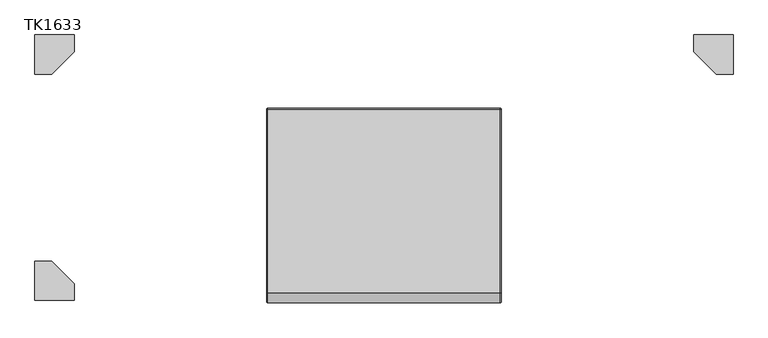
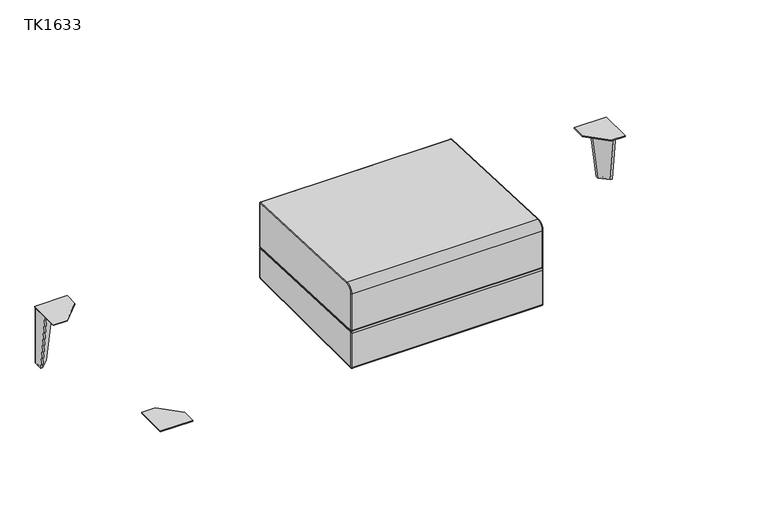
"""IFC4 building model written with IfcOpenShell, lengths in millimetres: furniture geometry, JSI-Teekan-Three_Seat_Lounge : TK1633."""

import ifcopenshell
import ifcopenshell.guid

model = None  # the IFC model being written
_history = None  # IfcOwnerHistory: only IFC2X3 demands one
_inside = {}  # id of a spatial element -> (the spatial element, [elements in it])
_under = {}  # id of a project, library or spatial element -> (it, [spatial elements below it])
_declared = {}  # id of a project -> (the project, [libraries it declares])
_typed = {}  # id of a type object -> (the type object, [elements of that type])
_made_of = {}  # id of a material, layer set ... -> (it, [elements and type objects made of it])


def new_model(schema):
    """Start an empty IFC model of exactly this schema.

    Asked for "IFC4X3", IfcOpenShell would pick the latest addendum, in which some entities
    have other attributes; the version numbers below select the first issue.
    IFC2X3 requires an IfcOwnerHistory on every rooted entity: one is made here for all.
    """
    global model, _history
    if schema == "IFC4X3":
        model = ifcopenshell.file(schema_version=(4, 3, 0, 0))
    else:
        model = ifcopenshell.file(schema=schema)
    _inside.clear()
    _under.clear()
    _declared.clear()
    _typed.clear()
    _made_of.clear()
    _history = None
    if model.schema == "IFC2X3":
        org = make("IfcOrganization", Name="unknown")
        user = make(
            "IfcPersonAndOrganization",
            ThePerson=make("IfcPerson", FamilyName="unknown"),
            TheOrganization=org,
        )
        app = make(
            "IfcApplication",
            ApplicationDeveloper=org,
            Version="unknown",
            ApplicationFullName="unknown",
            ApplicationIdentifier="unknown",
        )
        _history = make(
            "IfcOwnerHistory",
            OwningUser=user,
            OwningApplication=app,
            ChangeAction="ADDED",
            CreationDate=0,
        )
    return model


def make(cls, **values):
    """One entity of the class cls with the attributes given. An attribute that is None is left unset."""
    return model.create_entity(
        cls, **{name: value for name, value in values.items() if value is not None}
    )


def rooted(cls, **values):
    """An entity with a GlobalId (a new one), such as an element, a storey or a relation."""
    return make(cls, GlobalId=ifcopenshell.guid.new(), OwnerHistory=_history, **values)


def si_unit(unit_type, name, prefix=None):
    """IfcSIUnit, for example si_unit("LENGTHUNIT", "METRE", prefix="MILLI")."""
    return make("IfcSIUnit", UnitType=unit_type, Prefix=prefix, Name=name)


def assignment(units):
    """IfcUnitAssignment: the units of a project."""
    return None if units is None else make("IfcUnitAssignment", Units=units)


def point(xyz):
    """IfcCartesianPoint."""
    return None if xyz is None else make("IfcCartesianPoint", Coordinates=xyz)


def direction(xyz):
    """IfcDirection."""
    return None if xyz is None else make("IfcDirection", DirectionRatios=xyz)


def frame(location, z_axis=None, x_axis=None):
    """IfcAxis2Placement3D, a coordinate frame: its origin and axes. An axis left out is left unset."""
    return make(
        "IfcAxis2Placement3D",
        Location=point(location),
        Axis=direction(z_axis),
        RefDirection=direction(x_axis),
    )


def origin():
    """The frame at (0, 0, 0) with its axes left unset."""
    return frame((0.0, 0.0, 0.0))


def place(relative_to, where):
    """IfcLocalPlacement: puts the frame where relative to a parent placement (None: the world)."""
    return make(
        "IfcLocalPlacement", PlacementRelTo=relative_to, RelativePlacement=where
    )


def context(
    kind, dimensions, precision=None, world=None, true_north=None, identifier=None
):
    """IfcGeometricRepresentationContext, for example the 3D "Model" context."""
    return make(
        "IfcGeometricRepresentationContext",
        ContextIdentifier=identifier,
        ContextType=kind,
        CoordinateSpaceDimension=dimensions,
        Precision=precision,
        WorldCoordinateSystem=world,
        TrueNorth=true_north,
    )


def project(units=None, contexts=None):
    """IfcProject with its units and contexts."""
    return rooted(
        "IfcProject",
        Name="project",
        RepresentationContexts=contexts,
        UnitsInContext=assignment(units),
    )


def spatial(cls, under=None, at=None, **own):
    """A site, building, storey or space (cls), placed at a placement, below another one or the project."""
    s = rooted(cls, ObjectPlacement=at, **own)
    if under is not None:
        _under.setdefault(under.id(), (under, []))[1].append(s)
    return s


def polyline(points):
    """IfcPolyline through the points."""
    return make("IfcPolyline", Points=[point(p) for p in points])


def circle_curve(where, radius):
    """IfcCircle in the frame where."""
    return make("IfcCircle", Position=where, Radius=radius)


def ellipse_curve(where, semi_axis1, semi_axis2):
    """IfcEllipse in the frame where."""
    return make(
        "IfcEllipse", Position=where, SemiAxis1=semi_axis1, SemiAxis2=semi_axis2
    )


def trimmed(basis, trim1, trim2, sense, master):
    """IfcTrimmedCurve: the piece of a basis curve between two trims."""
    return make(
        "IfcTrimmedCurve",
        BasisCurve=basis,
        Trim1=trim1,
        Trim2=trim2,
        SenseAgreement=sense,
        MasterRepresentation=master,
    )


def outline(outer, holes=None, kind="AREA"):
    """IfcArbitraryClosedProfileDef: a profile drawn as a closed curve; with holes, ...WithVoids."""
    if holes is None:
        return make("IfcArbitraryClosedProfileDef", ProfileType=kind, OuterCurve=outer)
    return make(
        "IfcArbitraryProfileDefWithVoids",
        ProfileType=kind,
        OuterCurve=outer,
        InnerCurves=holes,
    )


def extrude(swept, where, along, depth):
    """IfcExtrudedAreaSolid: the profile swept, set in the frame where, extruded along a direction by depth."""
    return make(
        "IfcExtrudedAreaSolid",
        SweptArea=swept,
        Position=where,
        ExtrudedDirection=direction(along),
        Depth=depth,
    )


def shape(context_of_items, identifier, shape_type, items):
    """IfcShapeRepresentation: the items that make up one representation, for example the "Body"."""
    return make(
        "IfcShapeRepresentation",
        ContextOfItems=context_of_items,
        RepresentationIdentifier=identifier,
        RepresentationType=shape_type,
        Items=items,
    )


def source(mapping_origin, context_of_items, identifier, shape_type, items):
    """IfcRepresentationMap: a shape defined once, which mapped items show again and again."""
    return make(
        "IfcRepresentationMap",
        MappingOrigin=mapping_origin,
        MappedRepresentation=shape(context_of_items, identifier, shape_type, items),
    )


def transform(
    local_origin,
    x_axis=None,
    y_axis=None,
    z_axis=None,
    scale=None,
    scale2=None,
    scale3=None,
    uniform=True,
):
    """IfcCartesianTransformationOperator3D, or its non-uniform kind. x_axis, y_axis, z_axis: its Axis1, 2, 3."""
    if uniform:
        return make(
            "IfcCartesianTransformationOperator3D",
            Axis1=direction(x_axis),
            Axis2=direction(y_axis),
            LocalOrigin=point(local_origin),
            Scale=scale,
            Axis3=direction(z_axis),
        )
    return make(
        "IfcCartesianTransformationOperator3DnonUniform",
        Axis1=direction(x_axis),
        Axis2=direction(y_axis),
        LocalOrigin=point(local_origin),
        Scale=scale,
        Axis3=direction(z_axis),
        Scale2=scale2,
        Scale3=scale3,
    )


def mapped(mapping_source, mapping_target):
    """IfcMappedItem: shows the shape of a source again, moved by a transform."""
    return make(
        "IfcMappedItem", MappingSource=mapping_source, MappingTarget=mapping_target
    )


def made_of(thing, what):
    """Note that an element or type object is made of a material, layer set ...; save() writes the relation."""
    if what is not None:
        _made_of.setdefault(what.id(), (what, []))[1].append(thing)
    return thing


def element(
    cls,
    number,
    at=None,
    inside=None,
    cuts=None,
    type_object=None,
    material=None,
    context=None,
    identifier="Body",
    shape_type=None,
    held_by="IfcProductDefinitionShape",
    body=None,
    shapes=None,
    **own,
):
    """One element of the class cls, such as IfcWall. Its Tag is "e" and its number.

    at: its placement. inside: the storey or other place that contains it. cuts: it is an
    opening in that element (IfcRelVoidsElement). A single representation is given by context,
    identifier, shape_type and body (its items); several are given by shapes. held_by: the class
    of the entity that holds the representations. save() writes the other relations.
    """
    e = rooted(cls, Tag="e%d" % number, ObjectPlacement=at, **own)
    if body is not None:
        shapes = [shape(context, identifier, shape_type, body)]
    if shapes is not None:
        e.Representation = make(held_by, Representations=shapes)
    if inside is not None:
        _inside.setdefault(inside.id(), (inside, []))[1].append(e)
    if cuts is not None:
        rooted(
            "IfcRelVoidsElement", RelatingBuildingElement=cuts, RelatedOpeningElement=e
        )
    if type_object is not None:
        _typed.setdefault(type_object.id(), (type_object, []))[1].append(e)
    return made_of(e, material)


def aggregate(whole, parts):
    """IfcRelAggregates: a whole, such as a stair, and the parts it consists of."""
    return rooted("IfcRelAggregates", RelatingObject=whole, RelatedObjects=parts)


def save(model, path):
    """Write the relations noted so far, then the file.

    IfcRelAggregates (storeys below a building ...), IfcRelContainedInSpatialStructure (elements
    in a storey), IfcRelDefinesByType, IfcRelAssociatesMaterial and IfcRelDeclares: one each for
    every whole, place, type object, material and project.
    """
    for whole, parts in _under.values():
        aggregate(whole, parts)
    for where, things in _inside.values():
        rooted(
            "IfcRelContainedInSpatialStructure",
            RelatedElements=things,
            RelatingStructure=where,
        )
    for kind, things in _typed.values():
        rooted("IfcRelDefinesByType", RelatedObjects=things, RelatingType=kind)
    for what, things in _made_of.values():
        rooted("IfcRelAssociatesMaterial", RelatedObjects=things, RelatingMaterial=what)
    for by, libraries in _declared.values():
        rooted("IfcRelDeclares", RelatingContext=by, RelatedDefinitions=libraries)
    model.write(path)


def plane_surface(at):
    """IfcPlane: the flat surface through the origin of the frame at, square to its z axis."""
    return make("IfcPlane", Position=at)


def cylinder_surface(at, radius):
    """IfcCylindricalSurface: all points at the distance radius from the z axis of the frame at."""
    return make("IfcCylindricalSurface", Position=at, Radius=radius)


def revolved_surface(curve, axis_point, axis_direction):
    """IfcSurfaceOfRevolution: the curve turned about the line through axis_point along axis_direction."""
    return make(
        "IfcSurfaceOfRevolution",
        SweptCurve=make("IfcArbitraryOpenProfileDef", ProfileType="CURVE", Curve=curve),
        AxisPosition=make("IfcAxis1Placement", Location=point(axis_point), Axis=direction(axis_direction)),
    )


def spline_surface(u_degree, v_degree, points, u_multiplicities, v_multiplicities, u_knots, v_knots, weights=None):
    """IfcBSplineSurfaceWithKnots; with weights, IfcRationalBSplineSurfaceWithKnots. points: one row for each step in u."""
    own = dict(
        UDegree=u_degree,
        VDegree=v_degree,
        ControlPointsList=[[point(p) for p in row] for row in points],
        SurfaceForm="UNSPECIFIED",
        UClosed=False,
        VClosed=False,
        SelfIntersect=False,
        UMultiplicities=u_multiplicities,
        VMultiplicities=v_multiplicities,
        UKnots=u_knots,
        VKnots=v_knots,
        KnotSpec="UNSPECIFIED",
    )
    if weights is None:
        return make("IfcBSplineSurfaceWithKnots", **own)
    return make("IfcRationalBSplineSurfaceWithKnots", WeightsData=weights, **own)


def advanced_brep(points, edges, surfaces, faces):
    """IfcAdvancedBrep: a solid bounded by faces that lie on surfaces and meet in shared edges.

    An edge is (start, end): straight between two places in points (the first is 0);
    or (start, end, curve); or (start, end, curve, False) where it runs against its curve.
    A face is (place in surfaces, loops), or (place, loops, False) where it looks against
    its surface's normal. A loop lists edges by number (the first is 1), with a minus sign
    where the edge is run from its end to its start. The first loop is the outer one.
    """
    corners = [point(p) for p in points]
    vertices = [make("IfcVertexPoint", VertexGeometry=c) for c in corners]
    made = []
    for start, end, *more in edges:
        made.append(
            make(
                "IfcEdgeCurve",
                EdgeStart=vertices[start],
                EdgeEnd=vertices[end],
                EdgeGeometry=more[0] if more else make("IfcPolyline", Points=[corners[start], corners[end]]),
                SameSense=more[1] if len(more) > 1 else True,
            )
        )
    hull = []
    for where, loops, *sense in faces:
        bounds = []
        for j, loop in enumerate(loops):
            ring = [make("IfcOrientedEdge", EdgeElement=made[abs(k) - 1], Orientation=k > 0) for k in loop]
            bounds.append(
                make(
                    "IfcFaceOuterBound" if j == 0 else "IfcFaceBound",
                    Bound=make("IfcEdgeLoop", EdgeList=ring),
                    Orientation=True,
                )
            )
        hull.append(make("IfcAdvancedFace", Bounds=bounds, FaceSurface=surfaces[where], SameSense=sense[0] if sense else True))
    return make("IfcAdvancedBrep", Outer=make("IfcClosedShell", CfsFaces=hull))


def tk1633_198e8653(model_context):
    return source(origin(), model_context, "Body", "SolidModel", [
        extrude(outline(polyline([(-800.1, -342.9), (-901.7, -342.9), (-901.7, -241.3), (-858.8375, -241.3), (-800.1, -300.0375), (-800.1, -342.9)])), frame((0.0, 0.0, 189.4817329), z_axis=(0.0, 0.0, 1.0), x_axis=(1.0, 0.0, 0.0)), (0.0, 0.0, 1.0), 3.175),
        advanced_brep(
        [(891.7013333, 340.133006, 3.1926572), (891.7013333, 340.133006, 4.9994321), (891.7013333, 325.6863843, 4.9994321), (891.7013333, 325.6863843, 3.1926572), (891.7013333, 336.9403488, 0.0), (891.7013333, 328.8790415, 0.0), (891.7013333, 332.9096951, 0.0), (891.7013333, 332.9096951, 4.9994321)],
        [
            (0, 1),
            (1, 2, circle_curve(frame((891.7013333, 332.9096951, 4.9994321), z_axis=(0.0, 0.0, -1.0), x_axis=(0.0, -1.0, 0.0)), 7.2233108)),
            (2, 3),
            (3, 0, circle_curve(frame((891.7013333, 332.9096951, 3.1926572), z_axis=(0.0, 0.0, 1.0), x_axis=(0.0, -1.0, 0.0)), 7.2233108)),
            (2, 1, circle_curve(frame((891.7013333, 332.9096951, 4.9994321), z_axis=(0.0, 0.0, -1.0), x_axis=(0.0, -1.0, 0.0)), 7.2233108)),
            (0, 3, circle_curve(frame((891.7013333, 332.9096951, 3.1926572), z_axis=(0.0, 0.0, 1.0), x_axis=(0.0, -1.0, 0.0)), 7.2233108)),
            (4, 0, circle_curve(frame((891.7013333, 336.9403488, 3.1926572), z_axis=(1.0, 0.0, 0.0), x_axis=(0.0, 1.0, 0.0)), 3.1926572)),
            (3, 5, circle_curve(frame((891.7013333, 328.8790415, 3.1926572), z_axis=(1.0, 0.0, 0.0), x_axis=(0.0, -1.0, 0.0)), 3.1926572)),
            (5, 4, circle_curve(frame((891.7013333, 332.9096951, 0.0), z_axis=(0.0, 0.0, 1.0), x_axis=(0.0, -1.0, 0.0)), 4.0306536)),
            (4, 5, circle_curve(frame((891.7013333, 332.9096951, 0.0), z_axis=(0.0, 0.0, 1.0), x_axis=(0.0, -1.0, 0.0)), 4.0306536)),
            (6, 4),
            (5, 6),
            (1, 7),
            (7, 2),
        ],
        [
            cylinder_surface(frame((891.7013333, 332.9096951, 14.2077797), z_axis=(0.0, 0.0, -1.0), x_axis=(0.0, -1.0, 0.0)), 7.2233108),
            revolved_surface(trimmed(ellipse_curve(frame((891.7013333, 328.8790415, 3.1926572), z_axis=(1.0, 0.0, 0.0), x_axis=(0.0, -1.0, 0.0)), 3.1926572, 3.1926572), [point((891.7013333, 325.6863843, 3.1926572))], [point((891.7013333, 328.8790415, 0.0))], True, "CARTESIAN"), (891.7013333, 332.9096951, 14.2077797), (0.0, 0.0, -1.0)),
            plane_surface(frame((891.7013333, 332.9096951, 0.0), z_axis=(0.0, 0.0, -1.0), x_axis=(0.0, -1.0, 0.0))),
            plane_surface(frame((891.7013333, 332.9096951, 4.9994321), z_axis=(0.0, 0.0, 1.0), x_axis=(0.0, -1.0, 0.0))),
        ],
        [
            (0, [[1, 2, 3, 4]]),
            (0, [[-3, 5, -1, 6]]),
            (1, [[7, -4, 8, 9]]),
            (1, [[-8, -6, -7, 10]]),
            (2, [[11, -9, 12]]),
            (2, [[-12, -10, -11]]),
            (3, [[13, 14, -2]]),
            (3, [[-14, -13, -5]]),
        ],
    ),
        advanced_brep(
        [(847.725, 336.5496631, 189.4817329), (895.35, 288.9246631, 189.4817329), (901.7, 288.9246631, 189.4817329), (901.7, 339.725, 189.4817329), (898.525, 342.9, 189.4817329), (847.725, 342.9, 189.4817329), (869.95, 336.5496631, 4.9994321), (869.95, 342.9, 4.9994321), (898.4969923, 342.9, 4.9994321), (901.7, 339.6969923, 4.9994321), (901.7, 311.1496631, 4.9994321), (895.35, 311.1496631, 4.9994321)],
        [
            (0, 1),
            (1, 2),
            (2, 3),
            (3, 4, circle_curve(frame((898.525, 339.725, 189.4817329), z_axis=(0.0, 0.0, 1.0), x_axis=(-1.0, 0.0, 0.0)), 3.175)),
            (4, 5),
            (5, 0),
            (6, 7),
            (7, 8),
            (8, 9, circle_curve(frame((898.4969923, 339.6969923, 4.9994321), z_axis=(0.0, 0.0, -1.0), x_axis=(-1.0, 0.0, 0.0)), 3.2030077)),
            (9, 10),
            (10, 11),
            (11, 6),
            (6, 0),
            (5, 7),
            (4, 8),
            (3, 9),
            (2, 10),
            (1, 11),
        ],
        [
            plane_surface(frame((882.1208333, 323.3206649, 189.4817329), z_axis=(0.0, 0.0, 1.0), x_axis=(-1.0, 0.0, 0.0))),
            plane_surface(frame((889.5244987, 330.7243303, 4.9994321), z_axis=(0.0, 0.0, -1.0), x_axis=(-1.0, 0.0, 0.0))),
            plane_surface(frame((869.95, 339.7248316, 4.9994321), z_axis=(-0.9928212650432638, 0.0, -0.11960742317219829), x_axis=(0.0, 1.0, 0.0))),
            plane_surface(frame((884.2234961, 342.9, 4.9994321), z_axis=(0.0, 1.0, 0.0), x_axis=(1.0, 0.0, 0.0))),
            spline_surface(1, 2, [[(898.4969923, 342.9, 4.9994321), (901.7, 342.8999999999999, 4.9994321), (901.7, 339.6969923, 4.9994321)], [(898.525, 342.9, 189.4817329), (901.6999999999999, 342.8999999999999, 189.4817329), (901.7, 339.725, 189.4817329)]], [2, 2], [3, 3], [0.0, 1.0], [0.0, 1.0], weights=[[1.0, 0.7071067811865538, 1.0], [1.0, 0.7071067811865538, 1.0]]),
            plane_surface(frame((901.7, 325.4233277, 4.9994321), z_axis=(1.0, 0.0, 0.0), x_axis=(0.0, -1.0, 0.0))),
            plane_surface(frame((898.525, 311.1496631, 4.9994321), z_axis=(0.0, -0.992821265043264, -0.11960742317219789), x_axis=(-1.0, 0.0, 0.0))),
            plane_surface(frame((882.65, 323.8496631, 4.9994321), z_axis=(-0.7045550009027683, -0.7045550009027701, -0.08487933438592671), x_axis=(-0.7071067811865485, 0.7071067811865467, 0.0))),
        ],
        [
            (0, [[1, 2, 3, 4, 5, 6]]),
            (1, [[7, 8, 9, 10, 11, 12]]),
            (2, [[13, -6, 14, -7]]),
            (3, [[-14, -5, 15, -8]]),
            (4, [[-15, -4, 16, -9]]),
            (5, [[-16, -3, 17, -10]]),
            (6, [[-17, -2, 18, -11]]),
            (7, [[-18, -1, -13, -12]]),
        ],
    ),
        extrude(outline(polyline([(800.1, 342.9), (901.7, 342.9), (901.7, 241.3), (858.8375, 241.3), (800.1, 300.0375), (800.1, 342.9)])), frame((0.0, 0.0, 189.4817329), z_axis=(0.0, 0.0, 1.0), x_axis=(1.0, 0.0, 0.0)), (0.0, 0.0, 1.0), 3.175),
        advanced_brep(
        [(-891.7013333, 340.133006, 3.1926572), (-891.7013333, 325.6863843, 3.1926572), (-891.7013333, 325.6863843, 4.9994321), (-891.7013333, 340.133006, 4.9994321), (-891.7013333, 336.9403488, 0.0), (-891.7013333, 328.8790415, 0.0), (-891.7013333, 332.9096951, 0.0), (-891.7013333, 332.9096951, 4.9994321)],
        [
            (0, 1, circle_curve(frame((-891.7013333, 332.9096951, 3.1926572), z_axis=(0.0, 0.0, 1.0), x_axis=(0.0, -1.0, 0.0)), 7.2233108)),
            (1, 2),
            (2, 3, circle_curve(frame((-891.7013333, 332.9096951, 4.9994321), z_axis=(0.0, 0.0, -1.0), x_axis=(0.0, -1.0, 0.0)), 7.2233108)),
            (3, 0),
            (1, 0, circle_curve(frame((-891.7013333, 332.9096951, 3.1926572), z_axis=(0.0, 0.0, 1.0), x_axis=(0.0, -1.0, 0.0)), 7.2233108)),
            (3, 2, circle_curve(frame((-891.7013333, 332.9096951, 4.9994321), z_axis=(0.0, 0.0, -1.0), x_axis=(0.0, -1.0, 0.0)), 7.2233108)),
            (4, 5, circle_curve(frame((-891.7013333, 332.9096951, 0.0), z_axis=(0.0, 0.0, 1.0), x_axis=(0.0, -1.0, 0.0)), 4.0306536)),
            (5, 1, circle_curve(frame((-891.7013333, 328.8790415, 3.1926572), z_axis=(-1.0, 0.0, 0.0), x_axis=(0.0, -1.0, 0.0)), 3.1926572)),
            (0, 4, circle_curve(frame((-891.7013333, 336.9403488, 3.1926572), z_axis=(-1.0, 0.0, 0.0), x_axis=(0.0, 1.0, 0.0)), 3.1926572)),
            (5, 4, circle_curve(frame((-891.7013333, 332.9096951, 0.0), z_axis=(0.0, 0.0, 1.0), x_axis=(0.0, -1.0, 0.0)), 4.0306536)),
            (6, 5),
            (4, 6),
            (2, 7),
            (7, 3),
        ],
        [
            cylinder_surface(frame((-891.7013333, 332.9096951, 14.2077797), z_axis=(0.0, 0.0, -1.0), x_axis=(0.0, -1.0, 0.0)), 7.2233108),
            revolved_surface(trimmed(ellipse_curve(frame((-891.7013333, 328.8790415, 3.1926572), z_axis=(1.0, 0.0, 0.0), x_axis=(0.0, -1.0, 0.0)), 3.1926572, 3.1926572), [point((-891.7013333, 325.6863843, 3.1926572))], [point((-891.7013333, 328.8790415, 0.0))], True, "CARTESIAN"), (-891.7013333, 332.9096951, 14.2077797), (0.0, 0.0, -1.0)),
            plane_surface(frame((-891.7013333, 332.9096951, 0.0), z_axis=(0.0, 0.0, -1.0), x_axis=(0.0, -1.0, 0.0))),
            plane_surface(frame((-891.7013333, 332.9096951, 4.9994321), z_axis=(0.0, 0.0, 1.0), x_axis=(0.0, -1.0, 0.0))),
        ],
        [
            (0, [[1, 2, 3, 4]]),
            (0, [[5, -4, 6, -2]]),
            (1, [[7, 8, -1, 9]]),
            (1, [[10, -9, -5, -8]]),
            (2, [[11, -7, 12]]),
            (2, [[-12, -10, -11]]),
            (3, [[-3, 13, 14]]),
            (3, [[-6, -14, -13]]),
        ],
    ),
        advanced_brep(
        [(-847.725, 336.5496631, 189.4817329), (-847.725, 342.9, 189.4817329), (-898.525, 342.9, 189.4817329), (-901.7, 339.725, 189.4817329), (-901.7, 288.9246631, 189.4817329), (-895.35, 288.9246631, 189.4817329), (-869.95, 336.5496631, 4.9994321), (-895.35, 311.1496631, 4.9994321), (-901.7, 311.1496631, 4.9994321), (-901.7, 339.6969923, 4.9994321), (-898.4969923, 342.9, 4.9994321), (-869.95, 342.9, 4.9994321)],
        [
            (0, 1),
            (1, 2),
            (2, 3, circle_curve(frame((-898.525, 339.725, 189.4817329), z_axis=(0.0, 0.0, 1.0), x_axis=(1.0, 0.0, 0.0)), 3.175)),
            (3, 4),
            (4, 5),
            (5, 0),
            (6, 7),
            (7, 8),
            (8, 9),
            (9, 10, circle_curve(frame((-898.4969923, 339.6969923, 4.9994321), z_axis=(0.0, 0.0, -1.0), x_axis=(1.0, 0.0, 0.0)), 3.2030077)),
            (10, 11),
            (11, 6),
            (11, 1),
            (0, 6),
            (10, 2),
            (9, 3),
            (8, 4),
            (7, 5),
        ],
        [
            plane_surface(frame((-882.1208333, 323.3206649, 189.4817329), z_axis=(0.0, 0.0, 1.0), x_axis=(1.0, 0.0, 0.0))),
            plane_surface(frame((-889.5244987, 330.7243303, 4.9994321), z_axis=(0.0, 0.0, -1.0), x_axis=(1.0, 0.0, 0.0))),
            plane_surface(frame((-869.95, 339.7248316, 4.9994321), z_axis=(0.9928212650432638, 0.0, -0.11960742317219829), x_axis=(0.0, 1.0, 0.0))),
            plane_surface(frame((-884.2234961, 342.9, 4.9994321), z_axis=(0.0, 1.0, 0.0), x_axis=(-1.0, 0.0, 0.0))),
            spline_surface(2, 1, [[(-898.4969923, 342.9, 4.9994321), (-898.525, 342.9, 189.4817329)], [(-901.7, 342.8999999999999, 4.9994321), (-901.6999999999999, 342.8999999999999, 189.4817329)], [(-901.7, 339.6969923, 4.9994321), (-901.7, 339.725, 189.4817329)]], [3, 3], [2, 2], [0.0, 1.0], [0.0, 1.0], weights=[[1.0, 1.0], [0.7071067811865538, 0.7071067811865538], [1.0, 1.0]]),
            plane_surface(frame((-901.7, 325.4233277, 4.9994321), z_axis=(-1.0, 0.0, 0.0), x_axis=(0.0, -1.0, 0.0))),
            plane_surface(frame((-898.525, 311.1496631, 4.9994321), z_axis=(0.0, -0.992821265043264, -0.11960742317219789), x_axis=(1.0, 0.0, 0.0))),
            plane_surface(frame((-882.65, 323.8496631, 4.9994321), z_axis=(0.7045550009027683, -0.7045550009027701, -0.08487933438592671), x_axis=(0.7071067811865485, 0.7071067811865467, 0.0))),
        ],
        [
            (0, [[1, 2, 3, 4, 5, 6]]),
            (1, [[7, 8, 9, 10, 11, 12]]),
            (2, [[-12, 13, -1, 14]]),
            (3, [[-11, 15, -2, -13]]),
            (4, [[-10, 16, -3, -15]]),
            (5, [[-9, 17, -4, -16]]),
            (6, [[-8, 18, -5, -17]]),
            (7, [[-7, -14, -6, -18]]),
        ],
    ),
        extrude(outline(polyline([(-800.1, 342.9), (-800.1, 300.0375), (-858.8375, 241.3), (-901.7, 241.3), (-901.7, 342.9), (-800.1, 342.9)])), frame((0.0, 0.0, 189.4817329), z_axis=(0.0, 0.0, 1.0), x_axis=(1.0, 0.0, 0.0)), (0.0, 0.0, 1.0), 3.175),
        advanced_brep(
        [(300.2359375, 148.7693192, 295.6513391), (300.2359375, 153.733973, 300.4095468), (302.6171875, 151.352723, 300.4095468), (302.6171875, 148.8703961, 298.0304429), (-300.2359375, 148.7693192, 295.6513391), (-300.2359375, 153.733973, 300.4095468), (-302.6171875, 148.8703961, 298.0304429), (-302.6171875, 151.352723, 300.4095468), (302.6171875, -344.5512855, 318.9936072), (300.2359375, -344.6523625, 316.6145034), (-300.2359375, -344.6523625, 316.6145034), (-302.6171875, -344.5512855, 318.9936072), (300.2359375, -322.7527962, 467.50355), (302.6171875, -322.8538731, 465.1244462), (302.6171875, 149.0725499, 445.0745142), (300.2359375, 149.1736269, 447.4536181), (-300.2359375, 149.1736269, 447.4536181), (-300.2359375, -322.7527962, 467.50355), (-302.6171875, 149.0725499, 445.0745142), (-302.6171875, -322.8538731, 465.1244462), (302.6171875, 151.352723, 442.6954104), (300.2359375, 153.733973, 442.6954104), (-300.2359375, 153.733973, 442.6954104), (-302.6171875, 151.352723, 442.6954104), (302.6171875, -346.8497, 321.3917439), (300.2359375, -349.23095, 321.3917439), (-300.2359375, -349.23095, 321.3917439), (-302.6171875, -346.8497, 321.3917439), (302.6171875, -346.8497, 442.1264425), (300.2359375, -349.23095, 442.1264425), (-300.2359375, -349.23095, 442.1264425), (-302.6171875, -346.8497, 442.1264425)],
        [
            (0, 1, circle_curve(frame((300.2359375, 148.971473, 300.4095468), z_axis=(1.0, 0.0, 0.0), x_axis=(0.0, 1.0, 0.0)), 4.7625)),
            (1, 2, circle_curve(frame((300.2359375, 151.352723, 300.4095468), z_axis=(0.0, 0.0, -1.0), x_axis=(1.0, 0.0, 0.0)), 2.38125)),
            (2, 3, circle_curve(frame((302.6171875, 148.971473, 300.4095468), z_axis=(-1.0, 0.0, 0.0), x_axis=(0.0, 1.0, 0.0)), 2.38125)),
            (3, 0, circle_curve(frame((300.2359375, 148.8703961, 298.0304429), z_axis=(0.0, 0.9990987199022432, -0.04244700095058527), x_axis=(1.0, 0.0, 0.0)), 2.38125)),
            (0, 4),
            (4, 5, circle_curve(frame((-300.2359375, 148.971473, 300.4095468), z_axis=(1.0, 0.0, 0.0), x_axis=(0.0, 1.0, 0.0)), 4.7625)),
            (5, 1),
            (4, 6, circle_curve(frame((-300.2359375, 148.8703961, 298.0304429), z_axis=(0.0, 0.999098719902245, -0.042447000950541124), x_axis=(1.0, 0.0, 0.0)), 2.38125)),
            (6, 7, circle_curve(frame((-302.6171875, 148.971473, 300.4095468), z_axis=(1.0, 0.0, 0.0), x_axis=(0.0, 1.0, 0.0)), 2.38125)),
            (7, 5, circle_curve(frame((-300.2359375, 151.352723, 300.4095468), z_axis=(0.0, 0.0, -1.0), x_axis=(1.0, 0.0, 0.0)), 2.38125)),
            (3, 8),
            (8, 9, circle_curve(frame((300.2359375, -344.5512855, 318.9936072), z_axis=(0.0, 0.9990987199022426, -0.04244700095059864), x_axis=(1.0, 0.0, 0.0)), 2.38125)),
            (9, 0),
            (9, 10),
            (10, 4),
            (10, 11, circle_curve(frame((-300.2359375, -344.5512855, 318.9936072), z_axis=(0.0, 0.9990987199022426, -0.04244700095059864), x_axis=(1.0, 0.0, 0.0)), 2.38125)),
            (11, 6),
            (12, 13, circle_curve(frame((300.2359375, -322.8538731, 465.1244462), z_axis=(0.0, 0.9990987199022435, -0.0424470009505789), x_axis=(1.0, 0.0, 0.0)), 2.38125)),
            (13, 14),
            (14, 15, circle_curve(frame((300.2359375, 149.0725499, 445.0745142), z_axis=(0.0, -0.9990987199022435, 0.0424470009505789), x_axis=(1.0, 0.0, 0.0)), 2.38125)),
            (15, 12),
            (15, 16),
            (16, 17),
            (17, 12),
            (16, 18, circle_curve(frame((-300.2359375, 149.0725499, 445.0745142), z_axis=(0.0, -0.9990987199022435, 0.0424470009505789), x_axis=(1.0, 0.0, 0.0)), 2.38125)),
            (18, 19),
            (19, 17, circle_curve(frame((-300.2359375, -322.8538731, 465.1244462), z_axis=(0.0, 0.9990987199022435, -0.0424470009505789), x_axis=(1.0, 0.0, 0.0)), 2.38125)),
            (14, 20, circle_curve(frame((302.6171875, 148.971473, 442.6954104), z_axis=(-1.0, 0.0, 0.0), x_axis=(0.0, 0.04244700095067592, 0.9990987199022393)), 2.38125)),
            (20, 21, circle_curve(frame((300.2359375, 151.352723, 442.6954104), z_axis=(0.0, 0.0, 1.0), x_axis=(1.0, 0.0, 0.0)), 2.38125)),
            (21, 15, circle_curve(frame((300.2359375, 148.971473, 442.6954104), z_axis=(1.0, 0.0, 0.0), x_axis=(0.0, 0.04244700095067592, 0.9990987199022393)), 4.7625)),
            (21, 22),
            (22, 16, circle_curve(frame((-300.2359375, 148.971473, 442.6954104), z_axis=(1.0, 0.0, 0.0), x_axis=(0.0, 0.04244700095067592, 0.9990987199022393)), 4.7625)),
            (22, 23, circle_curve(frame((-300.2359375, 151.352723, 442.6954104), z_axis=(0.0, 0.0, 1.0), x_axis=(1.0, 0.0, 0.0)), 2.38125)),
            (23, 18, circle_curve(frame((-302.6171875, 148.971473, 442.6954104), z_axis=(1.0, 0.0, 0.0), x_axis=(0.0, 0.04244700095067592, 0.9990987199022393)), 2.38125)),
            (1, 21),
            (20, 2),
            (5, 22),
            (7, 23),
            (8, 24, circle_curve(frame((302.6171875, -344.4494, 321.3917439), z_axis=(-1.0, 0.0, 0.0), x_axis=(0.0, -0.04244700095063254, -0.9990987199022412)), 2.4003)),
            (24, 25, circle_curve(frame((300.2359375, -346.8497, 321.3917439), z_axis=(0.0, 0.0, -1.0), x_axis=(1.0, 0.0, 0.0)), 2.38125)),
            (25, 9, circle_curve(frame((300.2359375, -344.4494, 321.3917439), z_axis=(1.0, 0.0, 0.0), x_axis=(0.0, -0.04244700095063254, -0.9990987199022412)), 4.78155)),
            (25, 26),
            (26, 10, circle_curve(frame((-300.2359375, -344.4494, 321.3917439), z_axis=(1.0, 0.0, 0.0), x_axis=(0.0, -0.04244700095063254, -0.9990987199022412)), 4.78155)),
            (26, 27, circle_curve(frame((-300.2359375, -346.8497, 321.3917439), z_axis=(0.0, 0.0, -1.0), x_axis=(1.0, 0.0, 0.0)), 2.38125)),
            (27, 11, circle_curve(frame((-302.6171875, -344.4494, 321.3917439), z_axis=(1.0, 0.0, 0.0), x_axis=(0.0, -0.04244700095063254, -0.9990987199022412)), 2.4003)),
            (24, 28),
            (28, 29, circle_curve(frame((300.2359375, -346.8497, 442.1264425), z_axis=(0.0, 0.0, -1.0), x_axis=(1.0, 0.0, 0.0)), 2.38125)),
            (29, 25),
            (29, 30),
            (30, 26),
            (30, 31, circle_curve(frame((-300.2359375, -346.8497, 442.1264425), z_axis=(0.0, 0.0, -1.0), x_axis=(1.0, 0.0, 0.0)), 2.38125)),
            (31, 27),
            (13, 28, circle_curve(frame((302.6171875, -323.83095, 442.1264425), z_axis=(1.0, 0.0, 0.0), x_axis=(0.0, -1.0, 0.0)), 23.01875)),
            (12, 29, circle_curve(frame((300.2359375, -323.83095, 442.1264425), z_axis=(1.0, 0.0, 0.0), x_axis=(0.0, -1.0, 0.0)), 25.4)),
            (17, 30, circle_curve(frame((-300.2359375, -323.83095, 442.1264425), z_axis=(1.0, 0.0, 0.0), x_axis=(0.0, -1.0, 0.0)), 25.4)),
            (19, 31, circle_curve(frame((-302.6171875, -323.83095, 442.1264425), z_axis=(1.0, 0.0, 0.0), x_axis=(0.0, -1.0, 0.0)), 23.01875)),
        ],
        [
            revolved_surface(trimmed(ellipse_curve(frame((300.2359375, 151.352723, 300.4095468), z_axis=(0.0, 0.0, 1.0), x_axis=(1.0, 0.0, 0.0)), 2.38125, 2.38125), [point((302.6171875, 151.352723, 300.4095468))], [point((300.2359375, 153.733973, 300.4095468))], True, "CARTESIAN"), (0.0, 148.971473, 300.4095468), (-1.0, 0.0, 0.0)),
            cylinder_surface(frame((0.0, 148.971473, 300.4095468), z_axis=(-1.0, 0.0, 0.0), x_axis=(0.0, 1.0, 0.0)), 4.7625),
            revolved_surface(trimmed(ellipse_curve(frame((-300.2359375, 151.352723, 300.4095468), z_axis=(0.0, 0.0, 1.0), x_axis=(1.0, 0.0, 0.0)), 2.38125, 2.38125), [point((-300.2359375, 153.733973, 300.4095468))], [point((-302.6171875, 151.352723, 300.4095468))], True, "CARTESIAN"), (0.0, 148.971473, 300.4095468), (-1.0, 0.0, 0.0)),
            cylinder_surface(frame((300.2359375, 148.8703961, 298.0304429), z_axis=(0.0, 0.9990987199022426, -0.04244700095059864), x_axis=(1.0, 0.0, 0.0)), 2.38125),
            plane_surface(frame((300.2359375, 148.7693192, 295.6513391), z_axis=(0.0, -0.04244700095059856, -0.9990987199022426), x_axis=(0.0, -0.9990987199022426, 0.04244700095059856))),
            cylinder_surface(frame((-300.2359375, 148.8703961, 298.0304429), z_axis=(0.0, 0.9990987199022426, -0.04244700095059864), x_axis=(1.0, 0.0, 0.0)), 2.38125),
            cylinder_surface(frame((300.2359375, -322.8538731, 465.1244462), z_axis=(0.0, -0.9990987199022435, 0.0424470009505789), x_axis=(1.0, 0.0, 0.0)), 2.38125),
            plane_surface(frame((300.2359375, -322.7527962, 467.50355), z_axis=(0.0, 0.04244700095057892, 0.9990987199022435), x_axis=(0.0, 0.9990987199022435, -0.04244700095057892))),
            cylinder_surface(frame((-300.2359375, -322.8538731, 465.1244462), z_axis=(0.0, -0.9990987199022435, 0.0424470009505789), x_axis=(1.0, 0.0, 0.0)), 2.38125),
            revolved_surface(trimmed(ellipse_curve(frame((300.2359375, 149.0725499, 445.0745142), z_axis=(0.0, -0.9990987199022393, 0.04244700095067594), x_axis=(1.0, 0.0, 0.0)), 2.38125, 2.38125), [point((302.6171875, 149.0725499, 445.0745142))], [point((300.2359375, 149.1736269, 447.4536181))], True, "CARTESIAN"), (0.0, 148.971473, 442.6954104), (-1.0, 0.0, 0.0)),
            cylinder_surface(frame((0.0, 148.971473, 442.6954104), z_axis=(-1.0, 0.0, 0.0), x_axis=(0.0, 0.04244700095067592, 0.9990987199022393)), 4.7625),
            revolved_surface(trimmed(ellipse_curve(frame((-300.2359375, 149.0725499, 445.0745142), z_axis=(0.0, -0.9990987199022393, 0.04244700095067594), x_axis=(1.0, 0.0, 0.0)), 2.38125, 2.38125), [point((-300.2359375, 149.1736269, 447.4536181))], [point((-302.6171875, 149.0725499, 445.0745142))], True, "CARTESIAN"), (0.0, 148.971473, 442.6954104), (-1.0, 0.0, 0.0)),
            cylinder_surface(frame((300.2359375, 151.352723, 442.6954104), z_axis=(0.0, 0.0, 1.0), x_axis=(1.0, 0.0, 0.0)), 2.38125),
            plane_surface(frame((300.2359375, 153.733973, 442.6954104), z_axis=(0.0, 1.0, 0.0), x_axis=(0.0, 0.0, -1.0))),
            cylinder_surface(frame((-300.2359375, 151.352723, 442.6954104), z_axis=(0.0, 0.0, 1.0), x_axis=(1.0, 0.0, 0.0)), 2.38125),
            revolved_surface(trimmed(ellipse_curve(frame((300.2359375, -344.5512855, 318.9936072), z_axis=(0.0, 0.9990987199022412, -0.042447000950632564), x_axis=(1.0, 0.0, 0.0)), 2.38125, 2.38125), [point((302.6171875, -344.5512855, 318.9936072))], [point((300.2359375, -344.6523625, 316.6145034))], True, "CARTESIAN"), (0.0, -344.4494, 321.3917439), (-1.0, 0.0, 0.0)),
            cylinder_surface(frame((0.0, -344.4494, 321.3917439), z_axis=(-1.0, 0.0, 0.0), x_axis=(0.0, -0.04244700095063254, -0.9990987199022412)), 4.78155),
            revolved_surface(trimmed(ellipse_curve(frame((-300.2359375, -344.5512855, 318.9936072), z_axis=(0.0, 0.9990987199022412, -0.042447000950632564), x_axis=(1.0, 0.0, 0.0)), 2.38125, 2.38125), [point((-300.2359375, -344.6523625, 316.6145034))], [point((-302.6171875, -344.5512855, 318.9936072))], True, "CARTESIAN"), (0.0, -344.4494, 321.3917439), (-1.0, 0.0, 0.0)),
            cylinder_surface(frame((300.2359375, -346.8497, 321.3917439), z_axis=(0.0, 0.0, -1.0), x_axis=(1.0, 0.0, 0.0)), 2.38125),
            plane_surface(frame((300.2359375, -349.23095, 321.3917439), z_axis=(0.0, -1.0, 0.0), x_axis=(0.0, 0.0, 1.0))),
            cylinder_surface(frame((-300.2359375, -346.8497, 321.3917439), z_axis=(0.0, 0.0, -1.0), x_axis=(1.0, 0.0, 0.0)), 2.38125),
            plane_surface(frame((302.6171875, -323.83095, 442.1264425), z_axis=(1.0, 0.0, 0.0), x_axis=(0.0, -1.0, 0.0))),
            revolved_surface(trimmed(ellipse_curve(frame((300.2359375, -346.8497, 442.1264425), z_axis=(0.0, 0.0, -1.0), x_axis=(1.0, 0.0, 0.0)), 2.38125, 2.38125), [point((302.6171875, -346.8497, 442.1264425))], [point((300.2359375, -349.23095, 442.1264425))], True, "CARTESIAN"), (0.0, -323.83095, 442.1264425), (-1.0, 0.0, 0.0)),
            cylinder_surface(frame((0.0, -323.83095, 442.1264425), z_axis=(-1.0, 0.0, 0.0), x_axis=(0.0, -1.0, 0.0)), 25.4),
            revolved_surface(trimmed(ellipse_curve(frame((-300.2359375, -346.8497, 442.1264425), z_axis=(0.0, 0.0, -1.0), x_axis=(1.0, 0.0, 0.0)), 2.38125, 2.38125), [point((-300.2359375, -349.23095, 442.1264425))], [point((-302.6171875, -346.8497, 442.1264425))], True, "CARTESIAN"), (0.0, -323.83095, 442.1264425), (-1.0, 0.0, 0.0)),
            plane_surface(frame((-302.6171875, -323.83095, 442.1264425), z_axis=(-1.0, 0.0, 0.0), x_axis=(0.0, -1.0, 0.0))),
        ],
        [
            (0, [[1, 2, 3, 4]]),
            (1, [[-1, 5, 6, 7]]),
            (2, [[-6, 8, 9, 10]]),
            (3, [[-4, 11, 12, 13]]),
            (4, [[-5, -13, 14, 15]]),
            (5, [[-8, -15, 16, 17]]),
            (6, [[18, 19, 20, 21]]),
            (7, [[-21, 22, 23, 24]]),
            (8, [[-23, 25, 26, 27]]),
            (9, [[-20, 28, 29, 30]]),
            (10, [[-22, -30, 31, 32]]),
            (11, [[-25, -32, 33, 34]]),
            (12, [[-2, 35, -29, 36]]),
            (13, [[-7, 37, -31, -35]]),
            (14, [[-10, 38, -33, -37]]),
            (15, [[-12, 39, 40, 41]]),
            (16, [[-14, -41, 42, 43]]),
            (17, [[-16, -43, 44, 45]]),
            (18, [[-40, 46, 47, 48]]),
            (19, [[-42, -48, 49, 50]]),
            (20, [[-44, -50, 51, 52]]),
            (21, [[-3, -36, -28, -19, 53, -46, -39, -11]]),
            (22, [[-18, 54, -47, -53]]),
            (23, [[-24, 55, -49, -54]]),
            (24, [[-27, 56, -51, -55]]),
            (25, [[-9, -17, -45, -52, -56, -26, -34, -38]]),
        ],
    ),
        advanced_brep(
        [(-300.2359375, -349.25, 197.5346851), (300.2359375, -349.25, 197.5346851), (300.2359375, -349.25, 311.8407029), (-300.2359375, -349.25, 311.8407029), (-302.6171875, -346.86875, 311.8407029), (-302.6171875, -346.86875, 197.5346851), (302.6171875, -346.86875, 197.5346851), (302.6171875, -346.86875, 311.8407029), (-300.2359375, -344.2853462, 316.5989106), (300.2359375, -344.2853462, 316.5989106), (300.2359375, 149.169864, 295.6343219), (-300.2359375, 149.169864, 295.6343219), (-302.6171875, 149.0687871, 293.255218), (-302.6171875, -344.3864231, 314.2198068), (302.6171875, -344.3864231, 314.2198068), (302.6171875, 149.0687871, 293.255218), (300.2359375, 153.7302102, 290.8761142), (-300.2359375, 153.7302102, 290.8761142), (-302.6171875, 151.3489602, 290.8761142), (302.6171875, 151.3489602, 290.8761142), (300.2359375, 153.7302102, 197.5346851), (-300.2359375, 153.7302102, 197.5346851), (-302.6171875, 151.3489602, 197.5346851), (302.6171875, 151.3489602, 197.5346851), (300.2359375, 148.9677102, 192.7721851), (-300.2359375, 148.9677102, 192.7721851), (-302.6171875, 148.9677102, 195.1534351), (302.6171875, 148.9677102, 195.1534351), (300.2359375, -344.4875, 192.7721851), (-300.2359375, -344.4875, 192.7721851), (-302.6171875, -344.4875, 195.1534351), (302.6171875, -344.4875, 195.1534351)],
        [
            (0, 1),
            (1, 2),
            (2, 3),
            (3, 0),
            (3, 4, circle_curve(frame((-300.2359375, -346.86875, 311.8407029), z_axis=(0.0, 0.0, -1.0), x_axis=(0.0, -1.0, 0.0)), 2.38125)),
            (4, 5),
            (5, 0, circle_curve(frame((-300.2359375, -346.86875, 197.5346851), z_axis=(0.0, 0.0, 1.0), x_axis=(0.0, -1.0, 0.0)), 2.38125)),
            (1, 6, circle_curve(frame((300.2359375, -346.86875, 197.5346851), z_axis=(0.0, 0.0, 1.0), x_axis=(0.0, -1.0, 0.0)), 2.38125)),
            (6, 7),
            (7, 2, circle_curve(frame((300.2359375, -346.86875, 311.8407029), z_axis=(0.0, 0.0, -1.0), x_axis=(0.0, -1.0, 0.0)), 2.38125)),
            (8, 9),
            (9, 10),
            (10, 11),
            (11, 8),
            (11, 12, circle_curve(frame((-300.2359375, 149.0687871, 293.255218), z_axis=(0.0, -0.9990987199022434, 0.04244700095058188), x_axis=(0.0, 0.04244700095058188, 0.9990987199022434)), 2.38125)),
            (12, 13),
            (13, 8, circle_curve(frame((-300.2359375, -344.3864231, 314.2198068), z_axis=(0.0, 0.9990987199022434, -0.04244700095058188), x_axis=(0.0, 0.04244700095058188, 0.9990987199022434)), 2.38125)),
            (9, 14, circle_curve(frame((300.2359375, -344.3864231, 314.2198068), z_axis=(0.0, 0.9990987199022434, -0.04244700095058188), x_axis=(0.0, 0.04244700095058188, 0.9990987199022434)), 2.38125)),
            (14, 15),
            (15, 10, circle_curve(frame((300.2359375, 149.0687871, 293.255218), z_axis=(0.0, -0.9990987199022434, 0.04244700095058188), x_axis=(0.0, 0.04244700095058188, 0.9990987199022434)), 2.38125)),
            (10, 16, circle_curve(frame((300.2359375, 148.9677102, 290.8761142), z_axis=(-1.0, 0.0, 0.0), x_axis=(0.0, 0.0424470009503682, 0.9990987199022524)), 4.7625)),
            (16, 17),
            (17, 11, circle_curve(frame((-300.2359375, 148.9677102, 290.8761142), z_axis=(1.0, 0.0, 0.0), x_axis=(0.0, 0.0424470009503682, 0.9990987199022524)), 4.7625)),
            (17, 18, circle_curve(frame((-300.2359375, 151.3489602, 290.8761142), z_axis=(0.0, 0.0, 1.0), x_axis=(0.0, 1.0, 0.0)), 2.38125)),
            (18, 12, circle_curve(frame((-302.6171875, 148.9677102, 290.8761142), z_axis=(1.0, 0.0, 0.0), x_axis=(0.0, 0.0424470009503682, 0.9990987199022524)), 2.38125)),
            (15, 19, circle_curve(frame((302.6171875, 148.9677102, 290.8761142), z_axis=(-1.0, 0.0, 0.0), x_axis=(0.0, 0.0424470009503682, 0.9990987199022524)), 2.38125)),
            (19, 16, circle_curve(frame((300.2359375, 151.3489602, 290.8761142), z_axis=(0.0, 0.0, 1.0), x_axis=(0.0, 1.0, 0.0)), 2.38125)),
            (16, 20),
            (20, 21),
            (21, 17),
            (21, 22, circle_curve(frame((-300.2359375, 151.3489602, 197.5346851), z_axis=(0.0, 0.0, 1.0), x_axis=(0.0, 1.0, 0.0)), 2.38125)),
            (22, 18),
            (19, 23),
            (23, 20, circle_curve(frame((300.2359375, 151.3489602, 197.5346851), z_axis=(0.0, 0.0, 1.0), x_axis=(0.0, 1.0, 0.0)), 2.38125)),
            (20, 24, circle_curve(frame((300.2359375, 148.9677102, 197.5346851), z_axis=(-1.0, 0.0, 0.0), x_axis=(0.0, 1.0, 0.0)), 4.7625)),
            (24, 25),
            (25, 21, circle_curve(frame((-300.2359375, 148.9677102, 197.5346851), z_axis=(1.0, 0.0, 0.0), x_axis=(0.0, 1.0, 0.0)), 4.7625)),
            (25, 26, circle_curve(frame((-300.2359375, 148.9677102, 195.1534351), z_axis=(0.0, 1.0, 0.0), x_axis=(0.0, 0.0, -1.0)), 2.38125)),
            (26, 22, circle_curve(frame((-302.6171875, 148.9677102, 197.5346851), z_axis=(1.0, 0.0, 0.0), x_axis=(0.0, 1.0, 0.0)), 2.38125)),
            (23, 27, circle_curve(frame((302.6171875, 148.9677102, 197.5346851), z_axis=(-1.0, 0.0, 0.0), x_axis=(0.0, 1.0, 0.0)), 2.38125)),
            (27, 24, circle_curve(frame((300.2359375, 148.9677102, 195.1534351), z_axis=(0.0, 1.0, 0.0), x_axis=(0.0, 0.0, -1.0)), 2.38125)),
            (24, 28),
            (28, 29),
            (29, 25),
            (29, 30, circle_curve(frame((-300.2359375, -344.4875, 195.1534351), z_axis=(0.0, 1.0, 0.0), x_axis=(0.0, 0.0, -1.0)), 2.38125)),
            (30, 26),
            (27, 31),
            (31, 28, circle_curve(frame((300.2359375, -344.4875, 195.1534351), z_axis=(0.0, 1.0, 0.0), x_axis=(0.0, 0.0, -1.0)), 2.38125)),
            (0, 29, circle_curve(frame((-300.2359375, -344.4875, 197.5346851), z_axis=(1.0, 0.0, 0.0), x_axis=(0.0, 0.0, -1.0)), 4.7625)),
            (28, 1, circle_curve(frame((300.2359375, -344.4875, 197.5346851), z_axis=(-1.0, 0.0, 0.0), x_axis=(0.0, 0.0, -1.0)), 4.7625)),
            (5, 30, circle_curve(frame((-302.6171875, -344.4875, 197.5346851), z_axis=(1.0, 0.0, 0.0), x_axis=(0.0, 0.0, -1.0)), 2.38125)),
            (31, 6, circle_curve(frame((302.6171875, -344.4875, 197.5346851), z_axis=(-1.0, 0.0, 0.0), x_axis=(0.0, 0.0, -1.0)), 2.38125)),
            (2, 9, circle_curve(frame((300.2359375, -344.4875, 311.8407029), z_axis=(-1.0, 0.0, 0.0), x_axis=(0.0, -1.0, 0.0)), 4.7625)),
            (8, 3, circle_curve(frame((-300.2359375, -344.4875, 311.8407029), z_axis=(1.0, 0.0, 0.0), x_axis=(0.0, -1.0, 0.0)), 4.7625)),
            (13, 4, circle_curve(frame((-302.6171875, -344.4875, 311.8407029), z_axis=(1.0, 0.0, 0.0), x_axis=(0.0, -1.0, 0.0)), 2.38125)),
            (14, 7, circle_curve(frame((302.6171875, -344.4875, 311.8407029), z_axis=(1.0, 0.0, 0.0), x_axis=(0.0, -1.0, 0.0)), 2.38125)),
        ],
        [
            plane_surface(frame((300.2359375, -349.25, 197.5346851), z_axis=(0.0, -1.0, 0.0), x_axis=(0.0, 0.0, 1.0))),
            cylinder_surface(frame((-300.2359375, -346.86875, 197.5346851), z_axis=(0.0, 0.0, -1.0), x_axis=(0.0, -1.0, 0.0)), 2.38125),
            cylinder_surface(frame((300.2359375, -346.86875, 197.5346851), z_axis=(0.0, 0.0, -1.0), x_axis=(0.0, -1.0, 0.0)), 2.38125),
            plane_surface(frame((300.2359375, -344.2853462, 316.5989106), z_axis=(0.0, 0.04244700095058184, 0.9990987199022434), x_axis=(0.0, 0.9990987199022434, -0.04244700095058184))),
            cylinder_surface(frame((-300.2359375, -344.3864231, 314.2198068), z_axis=(0.0, -0.9990987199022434, 0.04244700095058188), x_axis=(0.0, 0.04244700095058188, 0.9990987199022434)), 2.38125),
            cylinder_surface(frame((300.2359375, -344.3864231, 314.2198068), z_axis=(0.0, -0.9990987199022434, 0.04244700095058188), x_axis=(0.0, 0.04244700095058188, 0.9990987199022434)), 2.38125),
            cylinder_surface(frame((0.0, 148.9677102, 290.8761142), z_axis=(-1.0, 0.0, 0.0), x_axis=(0.0, 0.0424470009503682, 0.9990987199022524)), 4.7625),
            revolved_surface(trimmed(ellipse_curve(frame((-300.2359375, 149.0687871, 293.255218), z_axis=(0.0, -0.9990987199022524, 0.042447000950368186), x_axis=(0.0, 0.042447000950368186, 0.9990987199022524)), 2.38125, 2.38125), [point((-300.2359375, 149.169864, 295.6343219))], [point((-302.6171875, 149.0687871, 293.255218))], True, "CARTESIAN"), (0.0, 148.9677102, 290.8761142), (-1.0, 0.0, 0.0)),
            revolved_surface(trimmed(ellipse_curve(frame((300.2359375, 149.0687871, 293.255218), z_axis=(0.0, -0.9990987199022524, 0.042447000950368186), x_axis=(0.0, 0.042447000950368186, 0.9990987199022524)), 2.38125, 2.38125), [point((302.6171875, 149.0687871, 293.255218))], [point((300.2359375, 149.169864, 295.6343219))], True, "CARTESIAN"), (0.0, 148.9677102, 290.8761142), (-1.0, 0.0, 0.0)),
            plane_surface(frame((300.2359375, 153.7302102, 290.8761142), z_axis=(0.0, 1.0, 0.0), x_axis=(0.0, 0.0, -1.0))),
            cylinder_surface(frame((-300.2359375, 151.3489602, 290.8761142), z_axis=(0.0, 0.0, 1.0), x_axis=(0.0, 1.0, 0.0)), 2.38125),
            cylinder_surface(frame((300.2359375, 151.3489602, 290.8761142), z_axis=(0.0, 0.0, 1.0), x_axis=(0.0, 1.0, 0.0)), 2.38125),
            cylinder_surface(frame((0.0, 148.9677102, 197.5346851), z_axis=(-1.0, 0.0, 0.0), x_axis=(0.0, 1.0, 0.0)), 4.7625),
            revolved_surface(trimmed(ellipse_curve(frame((-300.2359375, 151.3489602, 197.5346851), z_axis=(0.0, 0.0, 1.0), x_axis=(0.0, 1.0, 0.0)), 2.38125, 2.38125), [point((-300.2359375, 153.7302102, 197.5346851))], [point((-302.6171875, 151.3489602, 197.5346851))], True, "CARTESIAN"), (0.0, 148.9677102, 197.5346851), (-1.0, 0.0, 0.0)),
            revolved_surface(trimmed(ellipse_curve(frame((300.2359375, 151.3489602, 197.5346851), z_axis=(0.0, 0.0, 1.0), x_axis=(0.0, 1.0, 0.0)), 2.38125, 2.38125), [point((302.6171875, 151.3489602, 197.5346851))], [point((300.2359375, 153.7302102, 197.5346851))], True, "CARTESIAN"), (0.0, 148.9677102, 197.5346851), (-1.0, 0.0, 0.0)),
            plane_surface(frame((300.2359375, 148.9677102, 192.7721851), z_axis=(0.0, 0.0, -1.0), x_axis=(0.0, -1.0, 0.0))),
            cylinder_surface(frame((-300.2359375, 148.9677102, 195.1534351), z_axis=(0.0, 1.0, 0.0), x_axis=(0.0, 0.0, -1.0)), 2.38125),
            cylinder_surface(frame((300.2359375, 148.9677102, 195.1534351), z_axis=(0.0, 1.0, 0.0), x_axis=(0.0, 0.0, -1.0)), 2.38125),
            cylinder_surface(frame((0.0, -344.4875, 197.5346851), z_axis=(-1.0, 0.0, 0.0), x_axis=(0.0, 0.0, -1.0)), 4.7625),
            revolved_surface(trimmed(ellipse_curve(frame((-300.2359375, -344.4875, 195.1534351), z_axis=(0.0, 1.0, 0.0), x_axis=(0.0, 0.0, -1.0)), 2.38125, 2.38125), [point((-300.2359375, -344.4875, 192.7721851))], [point((-302.6171875, -344.4875, 195.1534351))], True, "CARTESIAN"), (0.0, -344.4875, 197.5346851), (-1.0, 0.0, 0.0)),
            revolved_surface(trimmed(ellipse_curve(frame((300.2359375, -344.4875, 195.1534351), z_axis=(0.0, 1.0, 0.0), x_axis=(0.0, 0.0, -1.0)), 2.38125, 2.38125), [point((302.6171875, -344.4875, 195.1534351))], [point((300.2359375, -344.4875, 192.7721851))], True, "CARTESIAN"), (0.0, -344.4875, 197.5346851), (-1.0, 0.0, 0.0)),
            cylinder_surface(frame((0.0, -344.4875, 311.8407029), z_axis=(-1.0, 0.0, 0.0), x_axis=(0.0, -1.0, 0.0)), 4.7625),
            revolved_surface(trimmed(ellipse_curve(frame((-300.2359375, -346.86875, 311.8407029), z_axis=(0.0, 0.0, -1.0), x_axis=(0.0, -1.0, 0.0)), 2.38125, 2.38125), [point((-300.2359375, -349.25, 311.8407029))], [point((-302.6171875, -346.86875, 311.8407029))], True, "CARTESIAN"), (0.0, -344.4875, 311.8407029), (-1.0, 0.0, 0.0)),
            plane_surface(frame((-302.6171875, -344.4875, 311.8407029), z_axis=(-1.0, 0.0, 0.0), x_axis=(0.0, -1.0, 0.0))),
            plane_surface(frame((302.6171875, -344.4875, 311.8407029), z_axis=(1.0, 0.0, 0.0), x_axis=(0.0, -1.0, 0.0))),
            revolved_surface(trimmed(ellipse_curve(frame((300.2359375, -346.86875, 311.8407029), z_axis=(0.0, 0.0, -1.0), x_axis=(0.0, -1.0, 0.0)), 2.38125, 2.38125), [point((302.6171875, -346.86875, 311.8407029))], [point((300.2359375, -349.25, 311.8407029))], True, "CARTESIAN"), (0.0, -344.4875, 311.8407029), (-1.0, 0.0, 0.0)),
        ],
        [
            (0, [[1, 2, 3, 4]]),
            (1, [[-4, 5, 6, 7]]),
            (2, [[-2, 8, 9, 10]]),
            (3, [[11, 12, 13, 14]]),
            (4, [[-14, 15, 16, 17]]),
            (5, [[-12, 18, 19, 20]]),
            (6, [[-13, 21, 22, 23]]),
            (7, [[-15, -23, 24, 25]]),
            (8, [[-20, 26, 27, -21]]),
            (9, [[-22, 28, 29, 30]]),
            (10, [[-24, -30, 31, 32]]),
            (11, [[-27, 33, 34, -28]]),
            (12, [[-29, 35, 36, 37]]),
            (13, [[-31, -37, 38, 39]]),
            (14, [[-34, 40, 41, -35]]),
            (15, [[-36, 42, 43, 44]]),
            (16, [[-38, -44, 45, 46]]),
            (17, [[-41, 47, 48, -42]]),
            (18, [[-1, 49, -43, 50]]),
            (19, [[-7, 51, -45, -49]]),
            (20, [[-8, -50, -48, 52]]),
            (21, [[-3, 53, -11, 54]]),
            (22, [[-5, -54, -17, 55]]),
            (23, [[-6, -55, -16, -25, -32, -39, -46, -51]]),
            (24, [[-9, -52, -47, -40, -33, -26, -19, 56]]),
            (25, [[-10, -56, -18, -53]]),
        ],
    ),
    ])


if __name__ == "__main__":
    model = new_model("IFC4")
    model_context = context("Model", 3, world=origin())
    ifc_project = project(units=[si_unit("LENGTHUNIT", "METRE", prefix="MILLI")], contexts=[model_context])
    site = spatial("IfcSite", under=ifc_project)
    building = spatial("IfcBuilding", under=site)
    placement = place(None, origin())
    tk1633_shape = tk1633_198e8653(model_context)
    element("IfcFurniture", 1, ObjectType="JSI-Teekan-Three_Seat_Lounge : TK1633", at=placement, inside=building, context=model_context, shape_type="MappedRepresentation", body=[
        mapped(tk1633_shape, transform((0.0, 0.0, 0.0), x_axis=(1.0, 0.0, 0.0), y_axis=(0.0, 1.0, 0.0), z_axis=(0.0, 0.0, 1.0))),
    ])
    save(model, "model.ifc")
